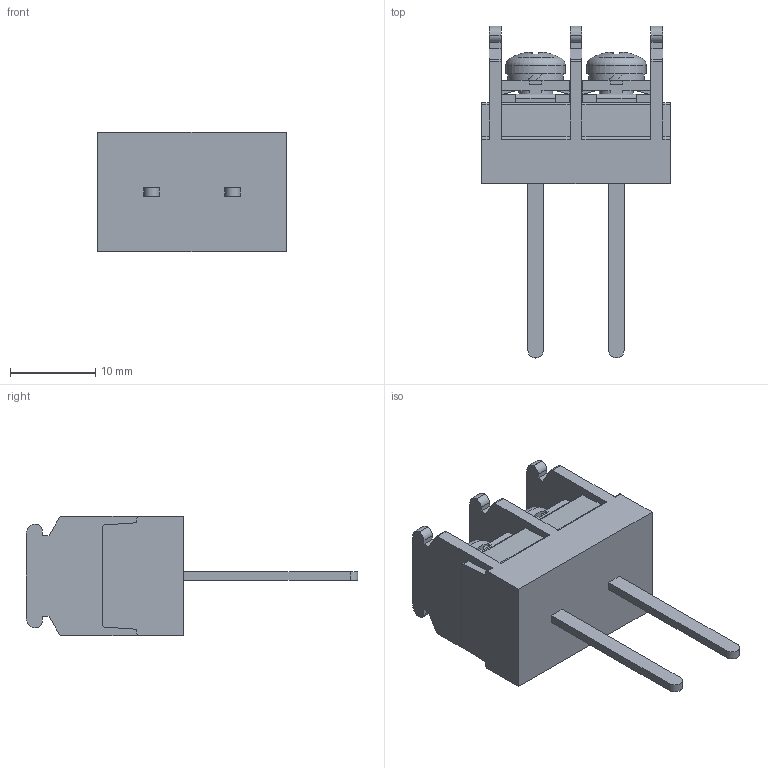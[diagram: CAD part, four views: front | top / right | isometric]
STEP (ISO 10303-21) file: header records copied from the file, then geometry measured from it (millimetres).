
FILE_DESCRIPTION(/* description */ ('Alibre Inc.'),/* implementation_level */ '2;1');
FILE_NAME(/* name */ 'export-4B92AFF6-377B-4C2E-8594-3C20B44EAF14',/* time_stamp */ '2021-02-13T15:10:28+09:00',/* author */ (''),/* organization */ (''),/* preprocessor_version */ 'ST-DEVELOPER v17',/* originating_system */ 'Alibre',/* authorisation */ '');
FILE_SCHEMA (('CONFIG_CONTROL_DESIGN'));
Length unit declared in the file: millimetre
Bounding box: 22.2 x 39 x 14 mm (x, y, z)
Volume: 3848.2 mm3; surface area: 2988.6 mm2
Topology: 1 solids, 19 shells, 648 faces, 1756 edges, 1162 vertices
Faces by surface type: plane 472, bspline 104, cylinder 56, cone 10, torus 4, sphere 2
Full cylindrical faces by diameter (mm): 4 x4, 7 x2
Entity records: 19609 total; most frequent: CARTESIAN_POINT 4486, ORIENTED_EDGE 3480, DIRECTION 2248, EDGE_CURVE 1740, VECTOR 1308, LINE 1308, VERTEX_POINT 1158, EDGE_LOOP 700
